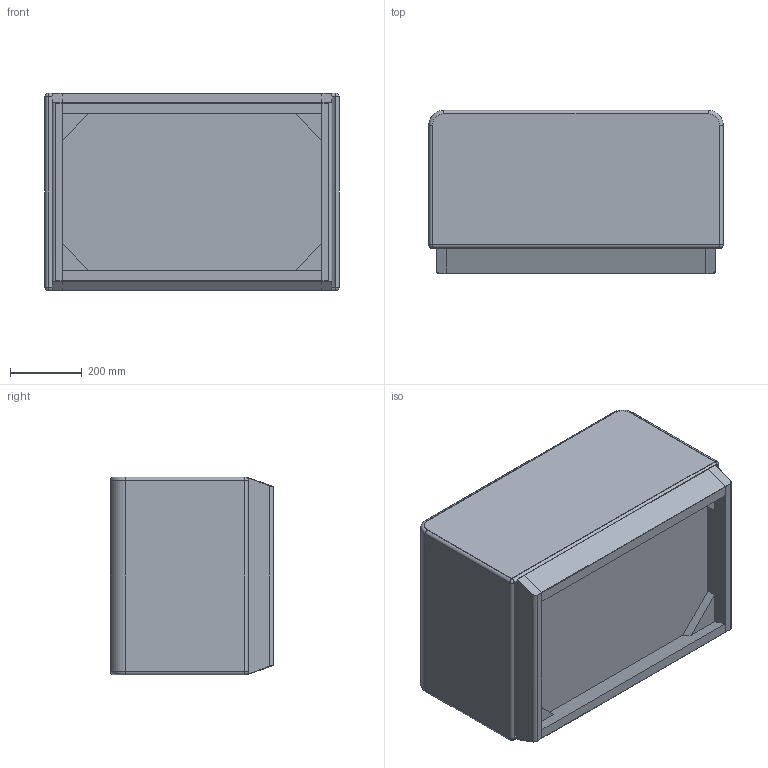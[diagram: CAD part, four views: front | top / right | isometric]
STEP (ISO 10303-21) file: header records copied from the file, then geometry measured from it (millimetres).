
FILE_DESCRIPTION(/* description */ (''),/* implementation_level */ '2;1');
FILE_NAME(/* name */ '1OH-0021 - Ohio Single Bench - STEP (Simplified).stp',/* time_stamp */ '2025-11-13T11:19:23Z',/* author */ ('craig.ferris'),/* organization */ (''),/* preprocessor_version */ 'ST-DEVELOPER v20',/* originating_system */ 'Autodesk Inventor 2025',/* authorisation */ '');
FILE_SCHEMA (('AUTOMOTIVE_DESIGN { 1 0 10303 214 3 1 1 }'));
Length unit declared in the file: millimetre
Products named in the file (1): 1OH-0021 - Ohio Single Bench (Simplified)
Bounding box: 818 x 453 x 550 mm (x, y, z)
Volume: 28381730 mm3; surface area: 6178683.6 mm2
Topology: 14 solids, 14 shells, 150 faces, 318 edges, 188 vertices
Faces by surface type: plane 88, cylinder 42, sphere 8, torus 8, bspline 4
Entity records: 4101 total; most frequent: CARTESIAN_POINT 849, DIRECTION 684, ORIENTED_EDGE 620, EDGE_CURVE 310, AXIS2_PLACEMENT_3D 235, LINE 214, VECTOR 214, VERTEX_POINT 188
